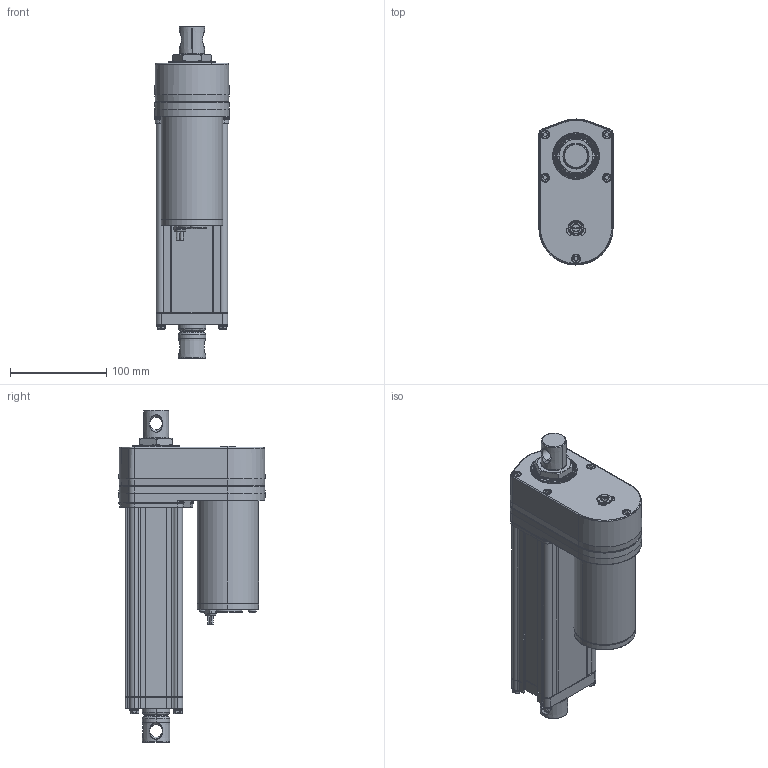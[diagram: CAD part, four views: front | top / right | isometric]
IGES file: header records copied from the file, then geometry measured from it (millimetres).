
Start section: SolidWorks IGES file using analytic representation for surfaces
Global section: file name: C:\Users\lynn\Desktop\工作用資料夾\3D CAD Models Community\0-給產品部\ID12\手動搖柄驅動選項\ID12-B-MD.IGS; native system: SolidWorks 2020; preprocessor: SolidWorks 2020; author: lynn; date: 221103.144145; units: millimetre
Bounding box: 77.15 x 151.65 x 344.5 mm (x, y, z)
Surface area: 176484.2 mm2 (no closed solid volume)
Topology: 0 solids, 0 shells, 1155 faces, 11503 edges, 11475 vertices
Faces by surface type: bspline 801, revolution 354
